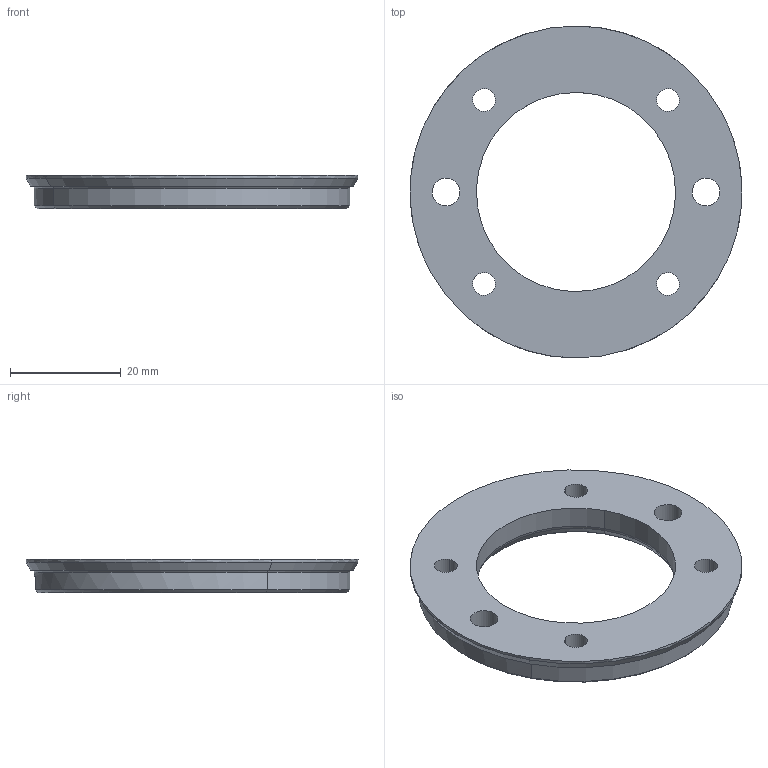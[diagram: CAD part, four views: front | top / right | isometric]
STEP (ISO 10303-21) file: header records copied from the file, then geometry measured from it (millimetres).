
FILE_DESCRIPTION(('CATIA V5 STEP Exchange'),'2;1');
FILE_NAME('Z:\Data1\ROBOT\CATIA06\products\EZ\EZ03-4525-02\Assy\Lightmodel\STEP\EZ03V-4525_J4.stp','2016-03-04T04:21:54+00:00',('none'),('none'),'Version 5-6 Release 2012','CATIA V5 STEP AP203','none');
FILE_SCHEMA(('CONFIG_CONTROL_DESIGN'));
Length unit declared in the file: millimetre
Products named in the file (1): J4_EZ03-02
Bounding box: 59.98 x 60 x 6 mm (x, y, z)
Volume: 8822.3 mm3; surface area: 5439.8 mm2
Topology: 1 solids, 1 shells, 47 faces, 116 edges, 72 vertices
Faces by surface type: cylinder 21, revolution 18, plane 8
Entity records: 1546 total; most frequent: CARTESIAN_POINT 389, ORIENTED_EDGE 232, DIRECTION 183, EDGE_CURVE 116, AXIS2_PLACEMENT_3D 95, VERTEX_POINT 72, CIRCLE 65, EDGE_LOOP 62
